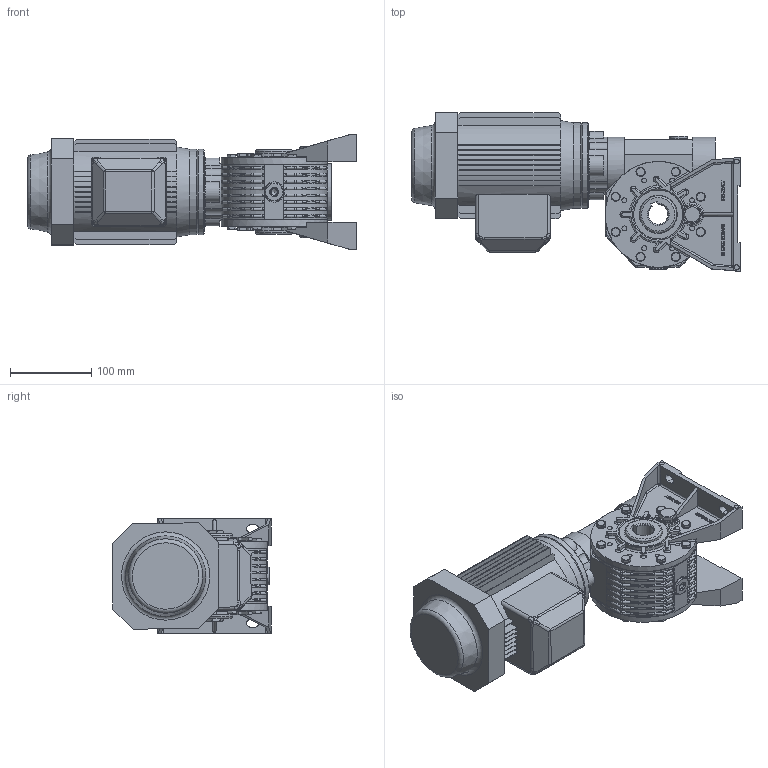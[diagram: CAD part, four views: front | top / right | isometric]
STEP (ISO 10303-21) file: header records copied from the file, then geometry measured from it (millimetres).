
FILE_DESCRIPTION((''),'2;1');
FILE_NAME('Y:\Archivi Inventor\Prog_01\GRAND_20\figuirini\mrv20_sito\71\MRV---20---P3-----71----B14-3D.stp','2013-02-08T16:13:15',('tech3'),(''),'Autodesk Inventor 2013','Autodesk Inventor 2013','');
FILE_SCHEMA(('AUTOMOTIVE_DESIGN { 1 0 10303 214 1 1 1 1 }'));
Length unit declared in the file: millimetre
Products named in the file (17): fig_mrv20_71_b14; mrv20; 0102001; 01020010; Coperchietto_47x7; Guarnizione 3_8 GAS; Tappo3_8 GAS; Tappo 3_8 GAS_esagn_incsst; mozzo_corona_fig; PARAOLIO 45x60x8; ISO 4017 M6 x 16; 0102029; DIN EN 24017 M6 x 12; 0102028; DIN EN ISO 4762 M6 x 20; 0102006; motori B14 71
Assembly tree (43 placements, depth 3):
  fig_mrv20_71_b14
    mrv20
      0102001
      01020010  x2
      Coperchietto_47x7
      Guarnizione 3_8 GAS  x4
      Tappo3_8 GAS  x2
      Tappo 3_8 GAS_esagn_incsst  x2
      mozzo_corona_fig
      PARAOLIO 45x60x8  x2
      ISO 4017 M6 x 16  x16
      0102029  x2
      DIN EN 24017 M6 x 12  x2
      0102028
      DIN EN ISO 4762 M6 x 20  x4
    0102006
    motori B14 71
Bounding box: 404 x 195.21 x 140.9 mm (x, y, z)
Volume: 4039861.2 mm3; surface area: 583463.6 mm2
Topology: 42 solids, 49 shells, 2734 faces, 6785 edges, 4156 vertices
Faces by surface type: plane 1380, cylinder 595, bspline 330, cone 200, torus 193, sphere 36
Full cylindrical faces by diameter (mm): 2 x2, 4.917 x24, 6 x38, 6.5 x36, 6.75 x4, 7 x4, 8 x2, 8.88 x18, 10 x4, 11 x16, 13.046 x2, 14 x1, 14.95 x4, 16.3 x4, 16.5 x2, 22 x8, 25 x2, 40 x1, 41.36 x1, 44.4 x2, 45 x4, 47 x4, 49.5 x1, 50.605 x2, 55.5 x2, 60 x4, 69.5 x1, 70 x2, 100 x6, 105 x2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
Entity records: 64449 total; most frequent: CARTESIAN_POINT 20847, ORIENTED_EDGE 8780, DIRECTION 8592, EDGE_CURVE 4390, AXIS2_PLACEMENT_3D 3184, VERTEX_POINT 2782, VECTOR 2224, LINE 2224
